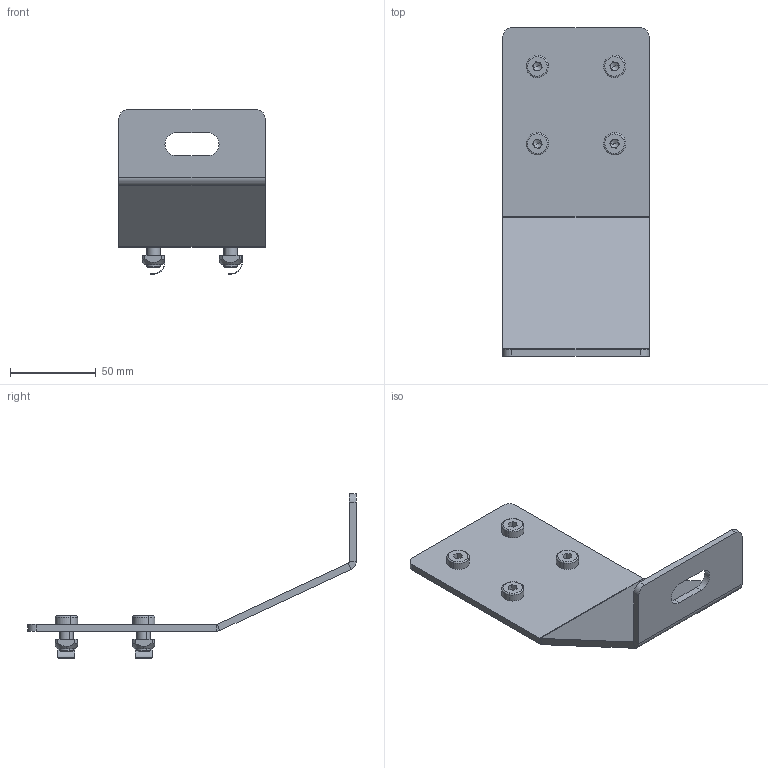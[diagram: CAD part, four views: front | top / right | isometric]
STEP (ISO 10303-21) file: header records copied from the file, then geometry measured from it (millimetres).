
FILE_DESCRIPTION (( 'STEP AP214' ), '1' );
FILE_NAME ('1.5048 Lattiakiinnityskulma 90.STEP', '2025-09-16T09:59:00', ( '' ), ( '' ), 'SwSTEP 2.0', 'SolidWorks 2025', '' );
FILE_SCHEMA (( 'AUTOMOTIVE_DESIGN' ));
Length unit declared in the file: millimetre
Products named in the file (1): 1.5048 Lattiakiinnityskulma 90
Bounding box: 85 x 191.24 x 95.66 mm (x, y, z)
Volume: 86462.8 mm3; surface area: 49434.8 mm2
Topology: 9 solids, 9 shells, 278 faces, 668 edges, 408 vertices
Faces by surface type: plane 168, cylinder 58, cone 36, torus 16
Entity records: 11517 total; most frequent: CARTESIAN_POINT 1911, DIRECTION 1342, ORIENTED_EDGE 1320, EDGE_CURVE 660, AXIS2_PLACEMENT_3D 479, VERTEX_POINT 408, VECTOR 384, LINE 384
